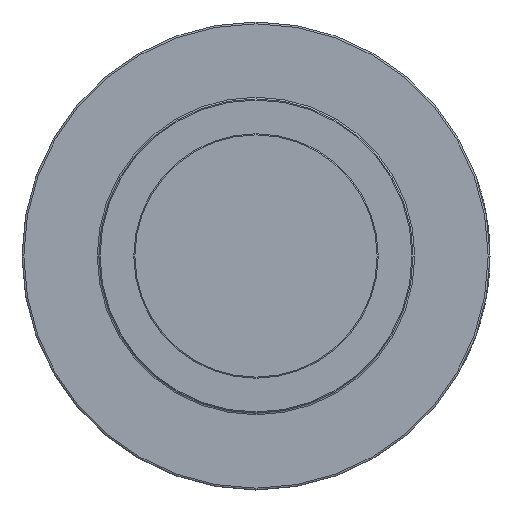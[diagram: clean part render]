
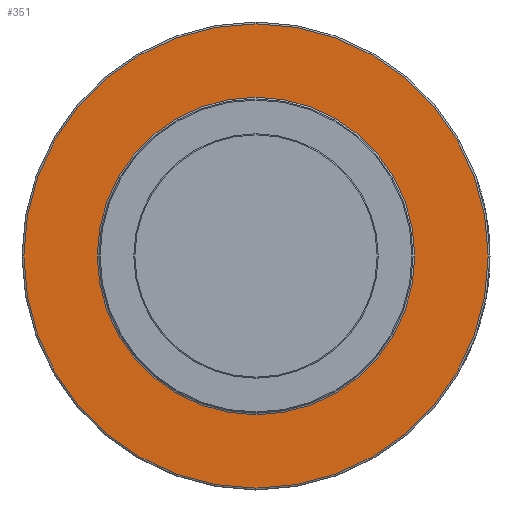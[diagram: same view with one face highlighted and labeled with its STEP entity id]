
A CAD part, left-side view. The second image highlights one B-rep face of the part: STEP entity #351.
In plain terms, the highlighted planar face has unit normal (-1, 0, 0).
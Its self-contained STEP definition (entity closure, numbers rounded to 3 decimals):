
#351 = ADVANCED_FACE( '', ( #860, #861 ), #862, .T. );
#860 = FACE_OUTER_BOUND( '', #2260, .T. );
#861 = FACE_BOUND( '', #2261, .T. );
#862 = PLANE( '', #2262 );
#2260 = EDGE_LOOP( '', ( #4149 ) );
#2261 = EDGE_LOOP( '', ( #4150 ) );
#2262 = AXIS2_PLACEMENT_3D( '', #4151, #4152, #4153 );
#4149 = ORIENTED_EDGE( '', *, *, #5748, .T. );
#4150 = ORIENTED_EDGE( '', *, *, #5749, .F. );
#4151 = CARTESIAN_POINT( '', ( 61.189, 0., 107.099 ) );
#4152 = DIRECTION( '', ( -1., 0., 0. ) );
#4153 = DIRECTION( '', ( 0., 0., 1. ) );
#5748 = EDGE_CURVE( '', #6661, #6661, #6662, .T. );
#5749 = EDGE_CURVE( '', #6663, #6663, #6664, .T. );
#6661 = VERTEX_POINT( '', #8578 );
#6662 = CIRCLE( '', #8579, 107.099 );
#6663 = VERTEX_POINT( '', #8580 );
#6664 = CIRCLE( '', #8581, 73.247 );
#8578 = CARTESIAN_POINT( '', ( 61.189, 0., 107.099 ) );
#8579 = AXIS2_PLACEMENT_3D( '', #10244, #10245, #10246 );
#8580 = CARTESIAN_POINT( '', ( 61.189, 0., 73.247 ) );
#8581 = AXIS2_PLACEMENT_3D( '', #10247, #10248, #10249 );
#10244 = CARTESIAN_POINT( '', ( 61.189, 0., 0. ) );
#10245 = DIRECTION( '', ( -1., 0., 0. ) );
#10246 = DIRECTION( '', ( 0., 0., 1. ) );
#10247 = CARTESIAN_POINT( '', ( 61.189, 0., 0. ) );
#10248 = DIRECTION( '', ( -1., 0., 0. ) );
#10249 = DIRECTION( '', ( 0., 0., 1. ) );
